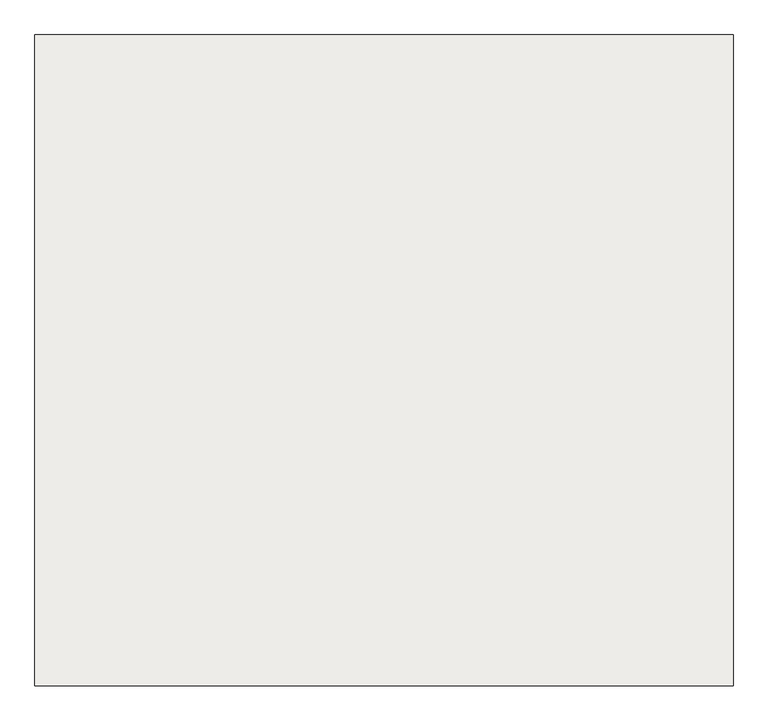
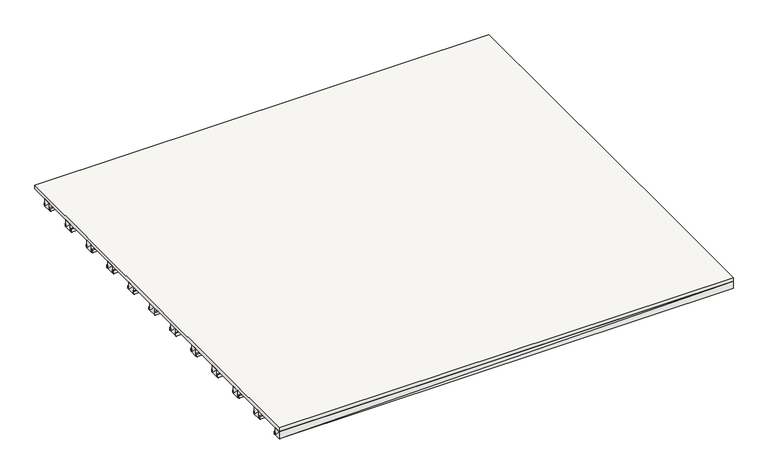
"""IFC4 building model written with IfcOpenShell, lengths in millimetres: slab geometry."""

from ifc_helpers import new_model, si_unit, frame, origin, place, context, project, spatial, polyline, outline, extrude, faceted_brep, source, transform, mapped, element, save


def slab_218659e0(model_context):
    return source(origin(), model_context, "Body", "SolidModel", [
        faceted_brep([(-2377.795, 1953.7, -120.0), (2377.7, 1953.7, -120.0), (2377.7, 1938.7, -120.0), (-2377.795, 1938.7, -120.0), (-2377.795, 1938.7, -90.0), (2377.7, 1938.7, -90.0), (2377.7, 1953.7, -90.0), (-2377.795, 1953.7, -90.0)], [[[0, 1, 2, 3]], [[4, 5, 6, 7]], [[4, 3, 5]], [[3, 2, 5]], [[5, 2, 6]], [[2, 1, 6]], [[6, 1, 7]], [[1, 0, 7]], [[7, 0, 4]], [[0, 3, 4]]]),
        faceted_brep([(-2377.795, 1273.7, -120.0), (2377.7, 1273.7, -120.0), (2377.7, 1193.7, -120.0), (-2377.795, 1193.7, -120.0), (-2377.795, 1193.7, -40.0), (2377.7, 1193.7, -40.0), (2377.7, 1273.7, -40.0), (-2377.795, 1273.7, -40.0)], [[[0, 1, 2, 3]], [[4, 5, 6, 7]], [[4, 3, 5]], [[3, 2, 5]], [[5, 2, 6]], [[2, 1, 6]], [[6, 1, 7]], [[1, 0, 7]], [[7, 0, 4]], [[0, 3, 4]]]),
        faceted_brep([(-2377.795, -1006.3, -120.0), (2377.7, -1006.3, -120.0), (2377.7, -1086.3, -120.0), (-2377.795, -1086.3, -120.0), (-2377.795, -1086.3, -40.0), (2377.7, -1086.3, -40.0), (2377.7, -1006.3, -40.0), (-2377.795, -1006.3, -40.0)], [[[0, 1, 2, 3]], [[4, 5, 6, 7]], [[4, 3, 5]], [[3, 2, 5]], [[5, 2, 6]], [[2, 1, 6]], [[6, 1, 7]], [[1, 0, 7]], [[7, 0, 4]], [[0, 3, 4]]]),
        faceted_brep([(-2377.795, 813.7, -120.0), (2377.7, 813.7, -120.0), (2377.7, 798.7, -120.0), (-2377.795, 798.7, -120.0), (-2377.795, 798.7, -90.0), (2377.7, 798.7, -90.0), (2377.7, 813.7, -90.0), (-2377.795, 813.7, -90.0)], [[[0, 1, 2, 3]], [[4, 5, 6, 7]], [[4, 3, 5]], [[3, 2, 5]], [[5, 2, 6]], [[2, 1, 6]], [[6, 1, 7]], [[1, 0, 7]], [[7, 0, 4]], [[0, 3, 4]]]),
        faceted_brep([(-2377.795, -1846.3, -120.0), (2377.7, -1846.3, -120.0), (2377.7, -1861.3, -120.0), (-2377.795, -1861.3, -120.0), (-2377.795, -1861.3, -90.0), (2377.7, -1861.3, -90.0), (2377.7, -1846.3, -90.0), (-2377.795, -1846.3, -90.0)], [[[0, 1, 2, 3]], [[4, 5, 6, 7]], [[4, 3, 5]], [[3, 2, 5]], [[5, 2, 6]], [[2, 1, 6]], [[6, 1, 7]], [[1, 0, 7]], [[7, 0, 4]], [[0, 3, 4]]]),
        faceted_brep([(-2377.795, 893.7, -120.0), (2377.7, 893.7, -120.0), (2377.7, 813.7, -120.0), (-2377.795, 813.7, -120.0), (-2377.795, 813.7, -40.0), (2377.7, 813.7, -40.0), (2377.7, 893.7, -40.0), (-2377.795, 893.7, -40.0)], [[[0, 1, 2, 3]], [[4, 5, 6, 7]], [[4, 3, 5]], [[3, 2, 5]], [[5, 2, 6]], [[2, 1, 6]], [[6, 1, 7]], [[1, 0, 7]], [[7, 0, 4]], [[0, 3, 4]]]),
        faceted_brep([(-2377.795, 1573.7, -120.0), (2377.7, 1573.7, -120.0), (2377.7, 1558.7, -120.0), (-2377.795, 1558.7, -120.0), (-2377.795, 1558.7, -90.0), (2377.7, 1558.7, -90.0), (2377.7, 1573.7, -90.0), (-2377.795, 1573.7, -90.0)], [[[0, 1, 2, 3]], [[4, 5, 6, 7]], [[4, 3, 5]], [[3, 2, 5]], [[5, 2, 6]], [[2, 1, 6]], [[6, 1, 7]], [[1, 0, 7]], [[7, 0, 4]], [[0, 3, 4]]]),
        faceted_brep([(-2377.795, -706.3, -120.0), (2377.7, -706.3, -120.0), (2377.7, -721.3, -120.0), (-2377.795, -721.3, -120.0), (-2377.795, -721.3, -90.0), (2377.7, -721.3, -90.0), (2377.7, -706.3, -90.0), (-2377.795, -706.3, -90.0)], [[[0, 1, 2, 3]], [[4, 5, 6, 7]], [[4, 3, 5]], [[3, 2, 5]], [[5, 2, 6]], [[2, 1, 6]], [[6, 1, 7]], [[1, 0, 7]], [[7, 0, 4]], [[0, 3, 4]]]),
        faceted_brep([(-2377.795, 2048.7, -120.0), (2377.7, 2048.7, -120.0), (2377.7, 2033.7, -120.0), (-2377.795, 2033.7, -120.0), (-2377.795, 2033.7, -90.0), (2377.7, 2033.7, -90.0), (2377.7, 2048.7, -90.0), (-2377.795, 2048.7, -90.0)], [[[0, 1, 2, 3]], [[4, 5, 6, 7]], [[4, 3, 5]], [[3, 2, 5]], [[5, 2, 6]], [[2, 1, 6]], [[6, 1, 7]], [[1, 0, 7]], [[7, 0, 4]], [[0, 3, 4]]]),
        faceted_brep([(-2377.795, -326.3, -120.0), (2377.7, -326.3, -120.0), (2377.7, -341.3, -120.0), (-2377.795, -341.3, -120.0), (-2377.795, -341.3, -90.0), (2377.7, -341.3, -90.0), (2377.7, -326.3, -90.0), (-2377.795, -326.3, -90.0)], [[[0, 1, 2, 3]], [[4, 5, 6, 7]], [[4, 3, 5]], [[3, 2, 5]], [[5, 2, 6]], [[2, 1, 6]], [[6, 1, 7]], [[1, 0, 7]], [[7, 0, 4]], [[0, 3, 4]]]),
        extrude(outline(polyline([(2377.7, 2216.29), (2377.8, -1098.7), (2377.7, -2216.3), (-2377.8, -2216.3), (-2377.79, 2216.3), (2377.7, 2216.29)])), frame((0.0, 0.0, -40.0), z_axis=(0.0, 0.0, 1.0), x_axis=(1.0, 0.0, 0.0)), (0.0, 0.0, 1.0), 40.0),
        faceted_brep([(-2377.795, 133.7, -120.0), (2377.7, 133.7, -120.0), (2377.7, 53.7, -120.0), (-2377.795, 53.7, -120.0), (-2377.795, 53.7, -40.0), (2377.7, 53.7, -40.0), (2377.7, 133.7, -40.0), (-2377.795, 133.7, -40.0)], [[[0, 1, 2, 3]], [[4, 5, 6, 7]], [[4, 3, 5]], [[3, 2, 5]], [[5, 2, 6]], [[2, 1, 6]], [[6, 1, 7]], [[1, 0, 7]], [[7, 0, 4]], [[0, 3, 4]]]),
        faceted_brep([(-2377.795, -231.3, -120.0), (2377.7, -231.3, -120.0), (2377.7, -246.3, -120.0), (-2377.795, -246.3, -120.0), (-2377.795, -246.3, -90.0), (2377.7, -246.3, -90.0), (2377.7, -231.3, -90.0), (-2377.795, -231.3, -90.0)], [[[0, 1, 2, 3]], [[4, 5, 6, 7]], [[4, 3, 5]], [[3, 2, 5]], [[5, 2, 6]], [[2, 1, 6]], [[6, 1, 7]], [[1, 0, 7]], [[7, 0, 4]], [[0, 3, 4]]]),
        faceted_brep([(-2377.795, 1653.7, -120.0), (2377.7, 1653.7, -120.0), (2377.7, 1573.7, -120.0), (-2377.795, 1573.7, -120.0), (-2377.795, 1573.7, -40.0), (2377.7, 1573.7, -40.0), (2377.7, 1653.7, -40.0), (-2377.795, 1653.7, -40.0)], [[[0, 1, 2, 3]], [[4, 5, 6, 7]], [[4, 3, 5]], [[3, 2, 5]], [[5, 2, 6]], [[2, 1, 6]], [[6, 1, 7]], [[1, 0, 7]], [[7, 0, 4]], [[0, 3, 4]]]),
        faceted_brep([(-2377.795, 148.7, -120.0), (2377.7, 148.7, -120.0), (2377.7, 133.7, -120.0), (-2377.795, 133.7, -120.0), (-2377.795, 133.7, -90.0), (2377.7, 133.7, -90.0), (2377.7, 148.7, -90.0), (-2377.795, 148.7, -90.0)], [[[0, 1, 2, 3]], [[4, 5, 6, 7]], [[4, 3, 5]], [[3, 2, 5]], [[5, 2, 6]], [[2, 1, 6]], [[6, 1, 7]], [[1, 0, 7]], [[7, 0, 4]], [[0, 3, 4]]]),
        faceted_brep([(-2377.795, 53.7, -120.0), (2377.7, 53.7, -120.0), (2377.7, 38.7, -120.0), (-2377.795, 38.7, -120.0), (-2377.795, 38.7, -90.0), (2377.7, 38.7, -90.0), (2377.7, 53.7, -90.0), (-2377.795, 53.7, -90.0)], [[[0, 1, 2, 3]], [[4, 5, 6, 7]], [[4, 3, 5]], [[3, 2, 5]], [[5, 2, 6]], [[2, 1, 6]], [[6, 1, 7]], [[1, 0, 7]], [[7, 0, 4]], [[0, 3, 4]]]),
        faceted_brep([(-2377.795, -1766.3, -120.0), (2377.7, -1766.3, -120.0), (2377.7, -1846.3, -120.0), (-2377.795, -1846.3, -120.0), (-2377.795, -1846.3, -40.0), (2377.7, -1846.3, -40.0), (2377.7, -1766.3, -40.0), (-2377.795, -1766.3, -40.0)], [[[0, 1, 2, 3]], [[4, 5, 6, 7]], [[4, 3, 5]], [[3, 2, 5]], [[5, 2, 6]], [[2, 1, 6]], [[6, 1, 7]], [[1, 0, 7]], [[7, 0, 4]], [[0, 3, 4]]]),
        faceted_brep([(-2377.795, -1466.3, -120.0), (2377.7, -1466.3, -120.0), (2377.7, -1481.3, -120.0), (-2377.795, -1481.3, -120.0), (-2377.795, -1481.3, -90.0), (2377.7, -1481.3, -90.0), (2377.7, -1466.3, -90.0), (-2377.795, -1466.3, -90.0)], [[[0, 1, 2, 3]], [[4, 5, 6, 7]], [[4, 3, 5]], [[3, 2, 5]], [[5, 2, 6]], [[2, 1, 6]], [[6, 1, 7]], [[1, 0, 7]], [[7, 0, 4]], [[0, 3, 4]]]),
        faceted_brep([(-2377.795, -2146.3, -120.0), (2377.7, -2146.3, -120.0), (2377.7, -2216.3, -120.0), (-2377.795, -2216.3, -120.0), (-2377.795, -2216.3, -40.0), (2377.7, -2216.3, -40.0), (2377.7, -2146.3, -40.0), (-2377.795, -2146.3, -40.0)], [[[0, 1, 2, 3]], [[4, 5, 6, 7]], [[4, 3, 5]], [[3, 2, 5]], [[5, 2, 6]], [[2, 1, 6]], [[6, 1, 7]], [[1, 0, 7]], [[7, 0, 4]], [[0, 3, 4]]]),
        faceted_brep([(-2377.795, -246.3, -120.0), (2377.7, -246.3, -120.0), (2377.7, -326.3, -120.0), (-2377.795, -326.3, -120.0), (-2377.795, -326.3, -40.0), (2377.7, -326.3, -40.0), (2377.7, -246.3, -40.0), (-2377.795, -246.3, -40.0)], [[[0, 1, 2, 3]], [[4, 5, 6, 7]], [[4, 3, 5]], [[3, 2, 5]], [[5, 2, 6]], [[2, 1, 6]], [[6, 1, 7]], [[1, 0, 7]], [[7, 0, 4]], [[0, 3, 4]]]),
        faceted_brep([(-2377.795, 1288.7, -120.0), (2377.7, 1288.7, -120.0), (2377.7, 1273.7, -120.0), (-2377.795, 1273.7, -120.0), (-2377.795, 1273.7, -90.0), (2377.7, 1273.7, -90.0), (2377.7, 1288.7, -90.0), (-2377.795, 1288.7, -90.0)], [[[0, 1, 2, 3]], [[4, 5, 6, 7]], [[4, 3, 5]], [[3, 2, 5]], [[5, 2, 6]], [[2, 1, 6]], [[6, 1, 7]], [[1, 0, 7]], [[7, 0, 4]], [[0, 3, 4]]]),
        faceted_brep([(-2377.795, -991.3, -120.0), (2377.7, -991.3, -120.0), (2377.7, -1006.3, -120.0), (-2377.795, -1006.3, -120.0), (-2377.795, -1006.3, -90.0), (2377.7, -1006.3, -90.0), (2377.7, -991.3, -90.0), (-2377.795, -991.3, -90.0)], [[[0, 1, 2, 3]], [[4, 5, 6, 7]], [[4, 3, 5]], [[3, 2, 5]], [[5, 2, 6]], [[2, 1, 6]], [[6, 1, 7]], [[1, 0, 7]], [[7, 0, 4]], [[0, 3, 4]]]),
        faceted_brep([(-2377.795, -1386.3, -120.0), (2377.7, -1386.3, -120.0), (2377.7, -1466.3, -120.0), (-2377.795, -1466.3, -120.0), (-2377.795, -1466.3, -40.0), (2377.7, -1466.3, -40.0), (2377.7, -1386.3, -40.0), (-2377.795, -1386.3, -40.0)], [[[0, 1, 2, 3]], [[4, 5, 6, 7]], [[4, 3, 5]], [[3, 2, 5]], [[5, 2, 6]], [[2, 1, 6]], [[6, 1, 7]], [[1, 0, 7]], [[7, 0, 4]], [[0, 3, 4]]]),
        faceted_brep([(-2377.795, 433.7, -120.0), (2377.7, 433.7, -120.0), (2377.7, 418.7, -120.0), (-2377.795, 418.7, -120.0), (-2377.795, 418.7, -90.0), (2377.7, 418.7, -90.0), (2377.7, 433.7, -90.0), (-2377.795, 433.7, -90.0)], [[[0, 1, 2, 3]], [[4, 5, 6, 7]], [[4, 3, 5]], [[3, 2, 5]], [[5, 2, 6]], [[2, 1, 6]], [[6, 1, 7]], [[1, 0, 7]], [[7, 0, 4]], [[0, 3, 4]]]),
        faceted_brep([(-2377.795, -611.3, -120.0), (2377.7, -611.3, -120.0), (2377.7, -626.3, -120.0), (-2377.795, -626.3, -120.0), (-2377.795, -626.3, -90.0), (2377.7, -626.3, -90.0), (2377.7, -611.3, -90.0), (-2377.795, -611.3, -90.0)], [[[0, 1, 2, 3]], [[4, 5, 6, 7]], [[4, 3, 5]], [[3, 2, 5]], [[5, 2, 6]], [[2, 1, 6]], [[6, 1, 7]], [[1, 0, 7]], [[7, 0, 4]], [[0, 3, 4]]]),
        faceted_brep([(-2377.795, 513.7, -120.0), (2377.7, 513.7, -120.0), (2377.7, 433.7, -120.0), (-2377.795, 433.7, -120.0), (-2377.795, 433.7, -40.0), (2377.7, 433.7, -40.0), (2377.7, 513.7, -40.0), (-2377.795, 513.7, -40.0)], [[[0, 1, 2, 3]], [[4, 5, 6, 7]], [[4, 3, 5]], [[3, 2, 5]], [[5, 2, 6]], [[2, 1, 6]], [[6, 1, 7]], [[1, 0, 7]], [[7, 0, 4]], [[0, 3, 4]]]),
        faceted_brep([(-2377.795, 1668.7, -120.0), (2377.7, 1668.7, -120.0), (2377.7, 1653.7, -120.0), (-2377.795, 1653.7, -120.0), (-2377.795, 1653.7, -90.0), (2377.7, 1653.7, -90.0), (2377.7, 1668.7, -90.0), (-2377.795, 1668.7, -90.0)], [[[0, 1, 2, 3]], [[4, 5, 6, 7]], [[4, 3, 5]], [[3, 2, 5]], [[5, 2, 6]], [[2, 1, 6]], [[6, 1, 7]], [[1, 0, 7]], [[7, 0, 4]], [[0, 3, 4]]]),
        faceted_brep([(-2377.795, -1751.3, -120.0), (2377.7, -1751.3, -120.0), (2377.7, -1766.3, -120.0), (-2377.795, -1766.3, -120.0), (-2377.795, -1766.3, -90.0), (2377.7, -1766.3, -90.0), (2377.7, -1751.3, -90.0), (-2377.795, -1751.3, -90.0)], [[[0, 1, 2, 3]], [[4, 5, 6, 7]], [[4, 3, 5]], [[3, 2, 5]], [[5, 2, 6]], [[2, 1, 6]], [[6, 1, 7]], [[1, 0, 7]], [[7, 0, 4]], [[0, 3, 4]]]),
        faceted_brep([(-2377.795, 528.7, -120.0), (2377.7, 528.7, -120.0), (2377.7, 513.7, -120.0), (-2377.795, 513.7, -120.0), (-2377.795, 513.7, -90.0), (2377.7, 513.7, -90.0), (2377.7, 528.7, -90.0), (-2377.795, 528.7, -90.0)], [[[0, 1, 2, 3]], [[4, 5, 6, 7]], [[4, 3, 5]], [[3, 2, 5]], [[5, 2, 6]], [[2, 1, 6]], [[6, 1, 7]], [[1, 0, 7]], [[7, 0, 4]], [[0, 3, 4]]]),
        faceted_brep([(-2377.795, -1371.3, -120.0), (2377.7, -1371.3, -120.0), (2377.7, -1386.3, -120.0), (-2377.795, -1386.3, -120.0), (-2377.795, -1386.3, -90.0), (2377.7, -1386.3, -90.0), (2377.7, -1371.3, -90.0), (-2377.795, -1371.3, -90.0)], [[[0, 1, 2, 3]], [[4, 5, 6, 7]], [[4, 3, 5]], [[3, 2, 5]], [[5, 2, 6]], [[2, 1, 6]], [[6, 1, 7]], [[1, 0, 7]], [[7, 0, 4]], [[0, 3, 4]]]),
        faceted_brep([(-2377.795, -2131.3, -120.0), (2377.7, -2131.3, -120.0), (2377.7, -2146.3, -120.0), (-2377.795, -2146.3, -120.0), (-2377.795, -2146.3, -90.0), (2377.7, -2146.3, -90.0), (2377.7, -2131.3, -90.0), (-2377.795, -2131.3, -90.0)], [[[0, 1, 2, 3]], [[4, 5, 6, 7]], [[4, 3, 5]], [[3, 2, 5]], [[5, 2, 6]], [[2, 1, 6]], [[6, 1, 7]], [[1, 0, 7]], [[7, 0, 4]], [[0, 3, 4]]]),
        faceted_brep([(-2377.795, -626.3, -120.0), (2377.7, -626.3, -120.0), (2377.7, -706.3, -120.0), (-2377.795, -706.3, -120.0), (-2377.795, -706.3, -40.0), (2377.7, -706.3, -40.0), (2377.7, -626.3, -40.0), (-2377.795, -626.3, -40.0)], [[[0, 1, 2, 3]], [[4, 5, 6, 7]], [[4, 3, 5]], [[3, 2, 5]], [[5, 2, 6]], [[2, 1, 6]], [[6, 1, 7]], [[1, 0, 7]], [[7, 0, 4]], [[0, 3, 4]]]),
        faceted_brep([(-2377.795, -1086.3, -120.0), (2377.7, -1086.3, -120.0), (2377.7, -1101.3, -120.0), (-2377.795, -1101.3, -120.0), (-2377.795, -1101.3, -90.0), (2377.7, -1101.3, -90.0), (2377.7, -1086.3, -90.0), (-2377.795, -1086.3, -90.0)], [[[0, 1, 2, 3]], [[4, 5, 6, 7]], [[4, 3, 5]], [[3, 2, 5]], [[5, 2, 6]], [[2, 1, 6]], [[6, 1, 7]], [[1, 0, 7]], [[7, 0, 4]], [[0, 3, 4]]]),
        faceted_brep([(-2377.795, 2033.7, -120.0), (2377.7, 2033.7, -120.0), (2377.7, 1953.7, -120.0), (-2377.795, 1953.7, -120.0), (-2377.795, 1953.7, -40.0), (2377.7, 1953.7, -40.0), (2377.7, 2033.7, -40.0), (-2377.795, 2033.7, -40.0)], [[[0, 1, 2, 3]], [[4, 5, 6, 7]], [[4, 3, 5]], [[3, 2, 5]], [[5, 2, 6]], [[2, 1, 6]], [[6, 1, 7]], [[1, 0, 7]], [[7, 0, 4]], [[0, 3, 4]]]),
        faceted_brep([(-2377.795, 1193.7, -120.0), (2377.7, 1193.7, -120.0), (2377.7, 1178.7, -120.0), (-2377.795, 1178.7, -120.0), (-2377.795, 1178.7, -90.0), (2377.7, 1178.7, -90.0), (2377.7, 1193.7, -90.0), (-2377.795, 1193.7, -90.0)], [[[0, 1, 2, 3]], [[4, 5, 6, 7]], [[4, 3, 5]], [[3, 2, 5]], [[5, 2, 6]], [[2, 1, 6]], [[6, 1, 7]], [[1, 0, 7]], [[7, 0, 4]], [[0, 3, 4]]]),
        faceted_brep([(-2377.795, 908.7, -120.0), (2377.7, 908.7, -120.0), (2377.7, 893.7, -120.0), (-2377.795, 893.7, -120.0), (-2377.795, 893.7, -90.0), (2377.7, 893.7, -90.0), (2377.7, 908.7, -90.0), (-2377.795, 908.7, -90.0)], [[[0, 1, 2, 3]], [[4, 5, 6, 7]], [[4, 3, 5]], [[3, 2, 5]], [[5, 2, 6]], [[2, 1, 6]], [[6, 1, 7]], [[1, 0, 7]], [[7, 0, 4]], [[0, 3, 4]]]),
    ])


if __name__ == "__main__":
    model = new_model("IFC4")
    model_context = context("Model", 3, world=origin())
    ifc_project = project(units=[si_unit("LENGTHUNIT", "METRE", prefix="MILLI")], contexts=[model_context])
    site = spatial("IfcSite", under=ifc_project)
    building = spatial("IfcBuilding", under=site)
    placement = place(None, origin())
    slab_shape = slab_218659e0(model_context)
    element("IfcSlab", 1, at=placement, inside=building, context=model_context, shape_type="MappedRepresentation", body=[
        mapped(slab_shape, transform((0.0, 0.0, 0.0), x_axis=(1.0, 0.0, 0.0), y_axis=(0.0, 1.0, 0.0), z_axis=(0.0, 0.0, 1.0))),
    ])
    save(model, "model.ifc")
